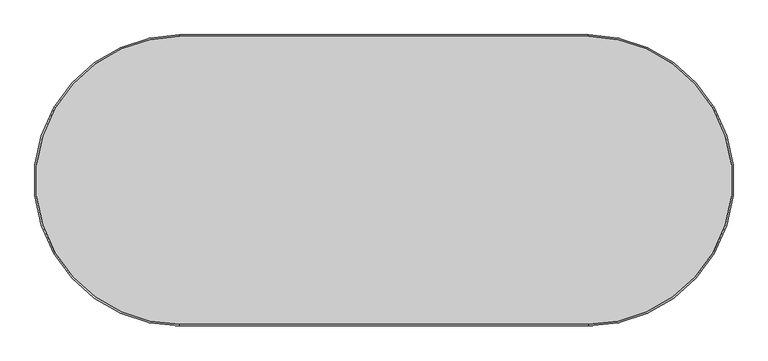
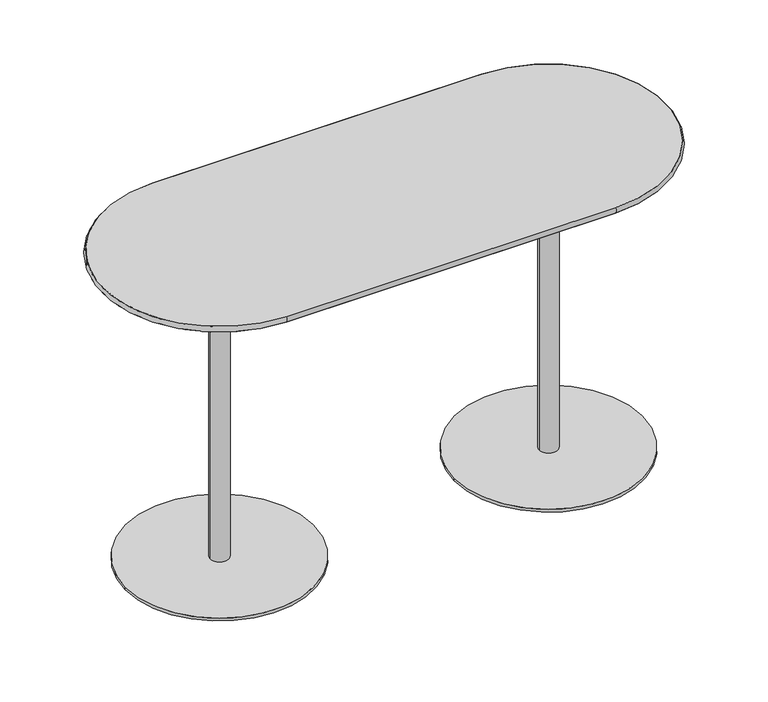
"""IFC4 building model written with IfcOpenShell, lengths in millimetres: furniture geometry, Steelcase Coalesse - Enea - Table - Double Base : Racetrack - 42H - Laminate."""

import ifcopenshell
import ifcopenshell.guid

model = None  # the IFC model being written
_history = None  # IfcOwnerHistory: only IFC2X3 demands one
_inside = {}  # id of a spatial element -> (the spatial element, [elements in it])
_under = {}  # id of a project, library or spatial element -> (it, [spatial elements below it])
_declared = {}  # id of a project -> (the project, [libraries it declares])
_typed = {}  # id of a type object -> (the type object, [elements of that type])
_made_of = {}  # id of a material, layer set ... -> (it, [elements and type objects made of it])


def new_model(schema):
    """Start an empty IFC model of exactly this schema.

    Asked for "IFC4X3", IfcOpenShell would pick the latest addendum, in which some entities
    have other attributes; the version numbers below select the first issue.
    IFC2X3 requires an IfcOwnerHistory on every rooted entity: one is made here for all.
    """
    global model, _history
    if schema == "IFC4X3":
        model = ifcopenshell.file(schema_version=(4, 3, 0, 0))
    else:
        model = ifcopenshell.file(schema=schema)
    _inside.clear()
    _under.clear()
    _declared.clear()
    _typed.clear()
    _made_of.clear()
    _history = None
    if model.schema == "IFC2X3":
        org = make("IfcOrganization", Name="unknown")
        user = make(
            "IfcPersonAndOrganization",
            ThePerson=make("IfcPerson", FamilyName="unknown"),
            TheOrganization=org,
        )
        app = make(
            "IfcApplication",
            ApplicationDeveloper=org,
            Version="unknown",
            ApplicationFullName="unknown",
            ApplicationIdentifier="unknown",
        )
        _history = make(
            "IfcOwnerHistory",
            OwningUser=user,
            OwningApplication=app,
            ChangeAction="ADDED",
            CreationDate=0,
        )
    return model


def make(cls, **values):
    """One entity of the class cls with the attributes given. An attribute that is None is left unset."""
    return model.create_entity(
        cls, **{name: value for name, value in values.items() if value is not None}
    )


def rooted(cls, **values):
    """An entity with a GlobalId (a new one), such as an element, a storey or a relation."""
    return make(cls, GlobalId=ifcopenshell.guid.new(), OwnerHistory=_history, **values)


def si_unit(unit_type, name, prefix=None):
    """IfcSIUnit, for example si_unit("LENGTHUNIT", "METRE", prefix="MILLI")."""
    return make("IfcSIUnit", UnitType=unit_type, Prefix=prefix, Name=name)


def assignment(units):
    """IfcUnitAssignment: the units of a project."""
    return None if units is None else make("IfcUnitAssignment", Units=units)


def point(xyz):
    """IfcCartesianPoint."""
    return None if xyz is None else make("IfcCartesianPoint", Coordinates=xyz)


def direction(xyz):
    """IfcDirection."""
    return None if xyz is None else make("IfcDirection", DirectionRatios=xyz)


def frame(location, z_axis=None, x_axis=None):
    """IfcAxis2Placement3D, a coordinate frame: its origin and axes. An axis left out is left unset."""
    return make(
        "IfcAxis2Placement3D",
        Location=point(location),
        Axis=direction(z_axis),
        RefDirection=direction(x_axis),
    )


def frame_2d(location, x_axis=None):
    """IfcAxis2Placement2D, a coordinate frame in the plane: its origin and x axis."""
    return make(
        "IfcAxis2Placement2D", Location=point(location), RefDirection=direction(x_axis)
    )


def origin():
    """The frame at (0, 0, 0) with its axes left unset."""
    return frame((0.0, 0.0, 0.0))


def origin_with_axes():
    """The frame at (0, 0, 0) with the z axis (0, 0, 1) and the x axis (1, 0, 0) written out."""
    return frame((0.0, 0.0, 0.0), z_axis=(0.0, 0.0, 1.0), x_axis=(1.0, 0.0, 0.0))


def place(relative_to, where):
    """IfcLocalPlacement: puts the frame where relative to a parent placement (None: the world)."""
    return make(
        "IfcLocalPlacement", PlacementRelTo=relative_to, RelativePlacement=where
    )


def context(
    kind, dimensions, precision=None, world=None, true_north=None, identifier=None
):
    """IfcGeometricRepresentationContext, for example the 3D "Model" context."""
    return make(
        "IfcGeometricRepresentationContext",
        ContextIdentifier=identifier,
        ContextType=kind,
        CoordinateSpaceDimension=dimensions,
        Precision=precision,
        WorldCoordinateSystem=world,
        TrueNorth=true_north,
    )


def project(units=None, contexts=None):
    """IfcProject with its units and contexts."""
    return rooted(
        "IfcProject",
        Name="project",
        RepresentationContexts=contexts,
        UnitsInContext=assignment(units),
    )


def spatial(cls, under=None, at=None, **own):
    """A site, building, storey or space (cls), placed at a placement, below another one or the project."""
    s = rooted(cls, ObjectPlacement=at, **own)
    if under is not None:
        _under.setdefault(under.id(), (under, []))[1].append(s)
    return s


def polyline(points):
    """IfcPolyline through the points."""
    return make("IfcPolyline", Points=[point(p) for p in points])


def circle_curve(where, radius):
    """IfcCircle in the frame where."""
    return make("IfcCircle", Position=where, Radius=radius)


def ellipse_curve(where, semi_axis1, semi_axis2):
    """IfcEllipse in the frame where."""
    return make(
        "IfcEllipse", Position=where, SemiAxis1=semi_axis1, SemiAxis2=semi_axis2
    )


def trimmed(basis, trim1, trim2, sense, master):
    """IfcTrimmedCurve: the piece of a basis curve between two trims."""
    return make(
        "IfcTrimmedCurve",
        BasisCurve=basis,
        Trim1=trim1,
        Trim2=trim2,
        SenseAgreement=sense,
        MasterRepresentation=master,
    )


def segment(curve, same_sense, transition):
    """IfcCompositeCurveSegment."""
    return make(
        "IfcCompositeCurveSegment",
        Transition=transition,
        SameSense=same_sense,
        ParentCurve=curve,
    )


def composite_curve(segments, self_intersect=None):
    """IfcCompositeCurve: segments joined end to end."""
    return make("IfcCompositeCurve", Segments=segments, SelfIntersect=self_intersect)


def outline(outer, holes=None, kind="AREA"):
    """IfcArbitraryClosedProfileDef: a profile drawn as a closed curve; with holes, ...WithVoids."""
    if holes is None:
        return make("IfcArbitraryClosedProfileDef", ProfileType=kind, OuterCurve=outer)
    return make(
        "IfcArbitraryProfileDefWithVoids",
        ProfileType=kind,
        OuterCurve=outer,
        InnerCurves=holes,
    )


def extrude(swept, where, along, depth):
    """IfcExtrudedAreaSolid: the profile swept, set in the frame where, extruded along a direction by depth."""
    return make(
        "IfcExtrudedAreaSolid",
        SweptArea=swept,
        Position=where,
        ExtrudedDirection=direction(along),
        Depth=depth,
    )


def shape(context_of_items, identifier, shape_type, items):
    """IfcShapeRepresentation: the items that make up one representation, for example the "Body"."""
    return make(
        "IfcShapeRepresentation",
        ContextOfItems=context_of_items,
        RepresentationIdentifier=identifier,
        RepresentationType=shape_type,
        Items=items,
    )


def source(mapping_origin, context_of_items, identifier, shape_type, items):
    """IfcRepresentationMap: a shape defined once, which mapped items show again and again."""
    return make(
        "IfcRepresentationMap",
        MappingOrigin=mapping_origin,
        MappedRepresentation=shape(context_of_items, identifier, shape_type, items),
    )


def transform(
    local_origin,
    x_axis=None,
    y_axis=None,
    z_axis=None,
    scale=None,
    scale2=None,
    scale3=None,
    uniform=True,
):
    """IfcCartesianTransformationOperator3D, or its non-uniform kind. x_axis, y_axis, z_axis: its Axis1, 2, 3."""
    if uniform:
        return make(
            "IfcCartesianTransformationOperator3D",
            Axis1=direction(x_axis),
            Axis2=direction(y_axis),
            LocalOrigin=point(local_origin),
            Scale=scale,
            Axis3=direction(z_axis),
        )
    return make(
        "IfcCartesianTransformationOperator3DnonUniform",
        Axis1=direction(x_axis),
        Axis2=direction(y_axis),
        LocalOrigin=point(local_origin),
        Scale=scale,
        Axis3=direction(z_axis),
        Scale2=scale2,
        Scale3=scale3,
    )


def mapped(mapping_source, mapping_target):
    """IfcMappedItem: shows the shape of a source again, moved by a transform."""
    return make(
        "IfcMappedItem", MappingSource=mapping_source, MappingTarget=mapping_target
    )


def made_of(thing, what):
    """Note that an element or type object is made of a material, layer set ...; save() writes the relation."""
    if what is not None:
        _made_of.setdefault(what.id(), (what, []))[1].append(thing)
    return thing


def element(
    cls,
    number,
    at=None,
    inside=None,
    cuts=None,
    type_object=None,
    material=None,
    context=None,
    identifier="Body",
    shape_type=None,
    held_by="IfcProductDefinitionShape",
    body=None,
    shapes=None,
    **own,
):
    """One element of the class cls, such as IfcWall. Its Tag is "e" and its number.

    at: its placement. inside: the storey or other place that contains it. cuts: it is an
    opening in that element (IfcRelVoidsElement). A single representation is given by context,
    identifier, shape_type and body (its items); several are given by shapes. held_by: the class
    of the entity that holds the representations. save() writes the other relations.
    """
    e = rooted(cls, Tag="e%d" % number, ObjectPlacement=at, **own)
    if body is not None:
        shapes = [shape(context, identifier, shape_type, body)]
    if shapes is not None:
        e.Representation = make(held_by, Representations=shapes)
    if inside is not None:
        _inside.setdefault(inside.id(), (inside, []))[1].append(e)
    if cuts is not None:
        rooted(
            "IfcRelVoidsElement", RelatingBuildingElement=cuts, RelatedOpeningElement=e
        )
    if type_object is not None:
        _typed.setdefault(type_object.id(), (type_object, []))[1].append(e)
    return made_of(e, material)


def aggregate(whole, parts):
    """IfcRelAggregates: a whole, such as a stair, and the parts it consists of."""
    return rooted("IfcRelAggregates", RelatingObject=whole, RelatedObjects=parts)


def save(model, path):
    """Write the relations noted so far, then the file.

    IfcRelAggregates (storeys below a building ...), IfcRelContainedInSpatialStructure (elements
    in a storey), IfcRelDefinesByType, IfcRelAssociatesMaterial and IfcRelDeclares: one each for
    every whole, place, type object, material and project.
    """
    for whole, parts in _under.values():
        aggregate(whole, parts)
    for where, things in _inside.values():
        rooted(
            "IfcRelContainedInSpatialStructure",
            RelatedElements=things,
            RelatingStructure=where,
        )
    for kind, things in _typed.values():
        rooted("IfcRelDefinesByType", RelatedObjects=things, RelatingType=kind)
    for what, things in _made_of.values():
        rooted("IfcRelAssociatesMaterial", RelatedObjects=things, RelatingMaterial=what)
    for by, libraries in _declared.values():
        rooted("IfcRelDeclares", RelatingContext=by, RelatedDefinitions=libraries)
    model.write(path)


def plane_surface(at):
    """IfcPlane: the flat surface through the origin of the frame at, square to its z axis."""
    return make("IfcPlane", Position=at)


def cylinder_surface(at, radius):
    """IfcCylindricalSurface: all points at the distance radius from the z axis of the frame at."""
    return make("IfcCylindricalSurface", Position=at, Radius=radius)


def revolved_surface(curve, axis_point, axis_direction):
    """IfcSurfaceOfRevolution: the curve turned about the line through axis_point along axis_direction."""
    return make(
        "IfcSurfaceOfRevolution",
        SweptCurve=make("IfcArbitraryOpenProfileDef", ProfileType="CURVE", Curve=curve),
        AxisPosition=make("IfcAxis1Placement", Location=point(axis_point), Axis=direction(axis_direction)),
    )


def advanced_brep(points, edges, surfaces, faces):
    """IfcAdvancedBrep: a solid bounded by faces that lie on surfaces and meet in shared edges.

    An edge is (start, end): straight between two places in points (the first is 0);
    or (start, end, curve); or (start, end, curve, False) where it runs against its curve.
    A face is (place in surfaces, loops), or (place, loops, False) where it looks against
    its surface's normal. A loop lists edges by number (the first is 1), with a minus sign
    where the edge is run from its end to its start. The first loop is the outer one.
    """
    corners = [point(p) for p in points]
    vertices = [make("IfcVertexPoint", VertexGeometry=c) for c in corners]
    made = []
    for start, end, *more in edges:
        made.append(
            make(
                "IfcEdgeCurve",
                EdgeStart=vertices[start],
                EdgeEnd=vertices[end],
                EdgeGeometry=more[0] if more else make("IfcPolyline", Points=[corners[start], corners[end]]),
                SameSense=more[1] if len(more) > 1 else True,
            )
        )
    hull = []
    for where, loops, *sense in faces:
        bounds = []
        for j, loop in enumerate(loops):
            ring = [make("IfcOrientedEdge", EdgeElement=made[abs(k) - 1], Orientation=k > 0) for k in loop]
            bounds.append(
                make(
                    "IfcFaceOuterBound" if j == 0 else "IfcFaceBound",
                    Bound=make("IfcEdgeLoop", EdgeList=ring),
                    Orientation=True,
                )
            )
        hull.append(make("IfcAdvancedFace", Bounds=bounds, FaceSurface=surfaces[where], SameSense=sense[0] if sense else True))
    return make("IfcAdvancedBrep", Outer=make("IfcClosedShell", CfsFaces=hull))


def furniture_744412c8(model_context):
    return source(origin(), model_context, "Body", "SolidModel", [
        advanced_brep(
        [(-828.9851448, -914.5459525, 1047.75), (-828.9851448, -914.5459525, 1066.8), (237.7880276, -914.5459525, 1066.8), (237.7880276, -914.5459525, 1047.75), (237.7880276, -160.8897715, 1047.75), (237.7880276, -160.8897715, 1066.8), (-828.9851448, -160.8897715, 1066.8), (-828.9851448, -160.8897715, 1047.75)],
        [
            (0, 1),
            (1, 2),
            (2, 3),
            (3, 0),
            (1, 0, circle_curve(frame((-828.9851448, -905.1264226, 1057.275), z_axis=(1.0, 0.0, 0.0), x_axis=(0.0, 1.0, 0.0)), 13.3960131)),
            (3, 2, circle_curve(frame((237.7880276, -905.1264226, 1057.275), z_axis=(-1.0, 0.0, 0.0), x_axis=(0.0, 1.0, 0.0)), 13.3960131)),
            (4, 3, circle_curve(frame((237.7880276, -537.717862, 1047.75), z_axis=(0.0, 0.0, -1.0), x_axis=(0.0, -1.0, 0.0)), 376.8280905)),
            (2, 5, circle_curve(frame((237.7880276, -537.717862, 1066.8), z_axis=(0.0, 0.0, 1.0), x_axis=(0.0, -1.0, 0.0)), 376.8280905)),
            (5, 4),
            (4, 5, circle_curve(frame((237.7880276, -170.3093013, 1057.275), z_axis=(1.0, 0.0, 0.0), x_axis=(0.0, -1.0, 0.0)), 13.3960131)),
            (5, 6),
            (6, 7),
            (7, 4),
            (7, 6, circle_curve(frame((-828.9851448, -170.3093013, 1057.275), z_axis=(1.0, 0.0, 0.0), x_axis=(0.0, -1.0, 0.0)), 13.3960131)),
            (0, 7, circle_curve(frame((-828.9851448, -537.717862, 1047.75), z_axis=(0.0, 0.0, -1.0), x_axis=(0.0, 1.0, 0.0)), 376.8280905)),
            (6, 1, circle_curve(frame((-828.9851448, -537.717862, 1066.8), z_axis=(0.0, 0.0, 1.0), x_axis=(0.0, 1.0, 0.0)), 376.8280905)),
        ],
        [
            plane_surface(frame((-828.9851448, -914.5459525, 1066.8), z_axis=(0.0, 1.0, 0.0), x_axis=(1.0, 0.0, 0.0))),
            cylinder_surface(frame((-828.9851448, -905.1264226, 1057.275), z_axis=(-1.0, 0.0, 0.0), x_axis=(0.0, 1.0, 0.0)), 13.3960131),
            revolved_surface(polyline([(237.7880276, -914.5459524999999, 1066.8), (237.7880276, -914.5459524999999, 1047.75)]), (237.7880276, -537.717862, 0.0), (0.0, 0.0, 1.0)),
            revolved_surface(trimmed(ellipse_curve(frame((237.7880276, -905.1264226, 1057.275), z_axis=(-1.0, 0.0, 0.0), x_axis=(0.0, 1.0, 0.0)), 13.3960131, 13.3960131), [point((237.7880276, -914.5459525, 1047.75))], [point((237.7880276, -914.5459525, 1066.8))], True, "CARTESIAN"), (237.7880276, -537.717862, 0.0), (0.0, 0.0, 1.0)),
            plane_surface(frame((237.7880276, -160.8897715, 1066.8), z_axis=(0.0, -1.0, 0.0), x_axis=(-1.0, 0.0, 0.0))),
            cylinder_surface(frame((237.7880276, -170.3093013, 1057.275), z_axis=(1.0, 0.0, 0.0), x_axis=(0.0, -1.0, 0.0)), 13.3960131),
            revolved_surface(polyline([(-828.9851448, -160.8897715, 1066.8), (-828.9851448, -160.8897715, 1047.75)]), (-828.9851448, -537.717862, 0.0), (0.0, 0.0, 1.0)),
            revolved_surface(trimmed(ellipse_curve(frame((-828.9851448, -170.3093013, 1057.275), z_axis=(1.0, 0.0, 0.0), x_axis=(0.0, -1.0, 0.0)), 13.3960131, 13.3960131), [point((-828.9851448, -160.8897715, 1047.75))], [point((-828.9851448, -160.8897715, 1066.8))], True, "CARTESIAN"), (-828.9851448, -537.717862, 0.0), (0.0, 0.0, 1.0)),
        ],
        [
            (0, [[1, 2, 3, 4]]),
            (1, [[5, -4, 6, -2]]),
            (2, [[7, -3, 8, 9]]),
            (3, [[-8, -6, -7, 10]]),
            (4, [[-9, 11, 12, 13]]),
            (5, [[-10, -13, 14, -11]]),
            (6, [[15, -12, 16, -1]]),
            (7, [[-16, -14, -15, -5]]),
        ],
    ),
        extrude(outline(composite_curve([segment(trimmed(circle_curve(frame_2d((237.7880276, -537.717862)), 376.7002625), [point((237.7880276, -161.0175995))], [point((237.7880276, -914.4181244))], False, "CARTESIAN"), True, "CONTINUOUS"), segment(polyline([(237.7880276, -914.4181244), (-828.9851448, -914.4181244)]), True, "CONTINUOUS"), segment(trimmed(circle_curve(frame_2d((-828.9851448, -537.717862)), 376.7002625), [point((-828.9851448, -914.4181244))], [point((-828.9851448, -161.0175995))], False, "CARTESIAN"), True, "CONTINUOUS"), segment(polyline([(-828.9851448, -161.0175995), (237.7880276, -161.0175995)]), True, "CONTINUOUS")], self_intersect=False)), frame((0.0, 0.0, 1047.75), z_axis=(0.0, 0.0, 1.0), x_axis=(1.0, 0.0, 0.0)), (0.0, 0.0, 1.0), 19.05),
        extrude(outline(composite_curve([segment(trimmed(circle_curve(frame_2d((-829.113029, -284.0746893)), 25.4), [point((-803.713029, -284.0746893))], [point((-854.513029, -284.0746893))], False, "CARTESIAN"), True, "CONTINUOUS"), segment(trimmed(circle_curve(frame_2d((-829.113029, -284.0746893)), 25.4), [point((-854.513029, -284.0746893))], [point((-803.713029, -284.0746893))], False, "CARTESIAN"), True, "CONTINUOUS")], self_intersect=False)), origin_with_axes(), (0.0, 0.0, 1.0), 6.35),
        extrude(outline(composite_curve([segment(trimmed(circle_curve(frame_2d((-1082.7563397, -537.3772238)), 25.4), [point((-1057.3563397, -537.3772238))], [point((-1108.1563397, -537.3772238))], False, "CARTESIAN"), True, "CONTINUOUS"), segment(trimmed(circle_curve(frame_2d((-1082.7563397, -537.3772238)), 25.4), [point((-1108.1563397, -537.3772238))], [point((-1057.3563397, -537.3772238))], False, "CARTESIAN"), True, "CONTINUOUS")], self_intersect=False)), origin_with_axes(), (0.0, 0.0, 1.0), 6.35),
        extrude(outline(composite_curve([segment(trimmed(circle_curve(frame_2d((-575.4697182, -537.3772238)), 25.4), [point((-550.0697182, -537.3772238))], [point((-600.8697182, -537.3772238))], False, "CARTESIAN"), True, "CONTINUOUS"), segment(trimmed(circle_curve(frame_2d((-575.4697182, -537.3772238)), 25.4), [point((-600.8697182, -537.3772238))], [point((-550.0697182, -537.3772238))], False, "CARTESIAN"), True, "CONTINUOUS")], self_intersect=False)), origin_with_axes(), (0.0, 0.0, 1.0), 6.35),
        extrude(outline(composite_curve([segment(trimmed(circle_curve(frame_2d((-829.113029, -790.6797584)), 25.4), [point((-803.713029, -790.6797584))], [point((-854.513029, -790.6797584))], False, "CARTESIAN"), True, "CONTINUOUS"), segment(trimmed(circle_curve(frame_2d((-829.113029, -790.6797584)), 25.4), [point((-854.513029, -790.6797584))], [point((-803.713029, -790.6797584))], False, "CARTESIAN"), True, "CONTINUOUS")], self_intersect=False)), origin_with_axes(), (0.0, 0.0, 1.0), 6.35),
        extrude(outline(composite_curve([segment(trimmed(circle_curve(frame_2d((-829.113029, -537.718)), 304.8), [point((-1133.913029, -537.718))], [point((-524.313029, -537.718))], False, "CARTESIAN"), True, "CONTINUOUS"), segment(trimmed(circle_curve(frame_2d((-829.113029, -537.718)), 304.8), [point((-524.313029, -537.718))], [point((-1133.913029, -537.718))], False, "CARTESIAN"), True, "CONTINUOUS")], self_intersect=False)), frame((0.0, 0.0, 6.35), z_axis=(0.0, 0.0, 1.0), x_axis=(1.0, 0.0, 0.0)), (0.0, 0.0, 1.0), 9.525),
        extrude(outline(composite_curve([segment(trimmed(circle_curve(frame_2d((-829.1133197, -537.7179273)), 30.0214725), [point((-859.1347922, -537.7179273))], [point((-799.0918471, -537.7179273))], False, "CARTESIAN"), True, "CONTINUOUS"), segment(trimmed(circle_curve(frame_2d((-829.1133197, -537.7179273)), 30.0214725), [point((-799.0918471, -537.7179273))], [point((-859.1347922, -537.7179273))], False, "CARTESIAN"), True, "CONTINUOUS")], self_intersect=False)), frame((0.0, 0.0, 15.875), z_axis=(0.0, 0.0, 1.0), x_axis=(1.0, 0.0, 0.0)), (0.0, 0.0, 1.0), 1031.875),
        extrude(outline(composite_curve([segment(trimmed(circle_curve(frame_2d((237.686971, -284.0746893)), 25.4), [point((212.286971, -284.0746893))], [point((263.086971, -284.0746893))], False, "CARTESIAN"), True, "CONTINUOUS"), segment(trimmed(circle_curve(frame_2d((237.686971, -284.0746893)), 25.4), [point((263.086971, -284.0746893))], [point((212.286971, -284.0746893))], False, "CARTESIAN"), True, "CONTINUOUS")], self_intersect=False)), origin_with_axes(), (0.0, 0.0, 1.0), 6.35),
        extrude(outline(composite_curve([segment(trimmed(circle_curve(frame_2d((491.3302818, -537.3772238)), 25.4), [point((465.9302818, -537.3772238))], [point((516.7302818, -537.3772238))], False, "CARTESIAN"), True, "CONTINUOUS"), segment(trimmed(circle_curve(frame_2d((491.3302818, -537.3772238)), 25.4), [point((516.7302818, -537.3772238))], [point((465.9302818, -537.3772238))], False, "CARTESIAN"), True, "CONTINUOUS")], self_intersect=False)), origin_with_axes(), (0.0, 0.0, 1.0), 6.35),
        extrude(outline(composite_curve([segment(trimmed(circle_curve(frame_2d((-15.9563397, -537.3772238)), 25.4), [point((-41.3563397, -537.3772238))], [point((9.4436603, -537.3772238))], False, "CARTESIAN"), True, "CONTINUOUS"), segment(trimmed(circle_curve(frame_2d((-15.9563397, -537.3772238)), 25.4), [point((9.4436603, -537.3772238))], [point((-41.3563397, -537.3772238))], False, "CARTESIAN"), True, "CONTINUOUS")], self_intersect=False)), origin_with_axes(), (0.0, 0.0, 1.0), 6.35),
        extrude(outline(composite_curve([segment(trimmed(circle_curve(frame_2d((237.686971, -790.6797584)), 25.4), [point((212.286971, -790.6797584))], [point((263.086971, -790.6797584))], False, "CARTESIAN"), True, "CONTINUOUS"), segment(trimmed(circle_curve(frame_2d((237.686971, -790.6797584)), 25.4), [point((263.086971, -790.6797584))], [point((212.286971, -790.6797584))], False, "CARTESIAN"), True, "CONTINUOUS")], self_intersect=False)), origin_with_axes(), (0.0, 0.0, 1.0), 6.35),
        extrude(outline(composite_curve([segment(trimmed(circle_curve(frame_2d((237.686971, -537.718)), 304.8), [point((542.486971, -537.718))], [point((-67.113029, -537.718))], False, "CARTESIAN"), True, "CONTINUOUS"), segment(trimmed(circle_curve(frame_2d((237.686971, -537.718)), 304.8), [point((-67.113029, -537.718))], [point((542.486971, -537.718))], False, "CARTESIAN"), True, "CONTINUOUS")], self_intersect=False)), frame((0.0, 0.0, 6.35), z_axis=(0.0, 0.0, 1.0), x_axis=(1.0, 0.0, 0.0)), (0.0, 0.0, 1.0), 9.525),
        extrude(outline(composite_curve([segment(trimmed(circle_curve(frame_2d((237.6872617, -537.7179273)), 30.0214725), [point((267.7087342, -537.7179273))], [point((207.6657892, -537.7179273))], False, "CARTESIAN"), True, "CONTINUOUS"), segment(trimmed(circle_curve(frame_2d((237.6872617, -537.7179273)), 30.0214725), [point((207.6657892, -537.7179273))], [point((267.7087342, -537.7179273))], False, "CARTESIAN"), True, "CONTINUOUS")], self_intersect=False)), frame((0.0, 0.0, 15.875), z_axis=(0.0, 0.0, 1.0), x_axis=(1.0, 0.0, 0.0)), (0.0, 0.0, 1.0), 1031.875),
    ])


if __name__ == "__main__":
    model = new_model("IFC4")
    model_context = context("Model", 3, world=origin())
    ifc_project = project(units=[si_unit("LENGTHUNIT", "METRE", prefix="MILLI")], contexts=[model_context])
    site = spatial("IfcSite", under=ifc_project)
    building = spatial("IfcBuilding", under=site)
    placement = place(None, origin())
    furniture_shape = furniture_744412c8(model_context)
    element("IfcFurniture", 1, ObjectType="Steelcase Coalesse - Enea - Table - Double Base : Racetrack - 42H - Laminate", at=placement, inside=building, context=model_context, shape_type="MappedRepresentation", body=[
        mapped(furniture_shape, transform((0.0, 0.0, 0.0), x_axis=(1.0, 0.0, 0.0), y_axis=(0.0, 1.0, 0.0), z_axis=(0.0, 0.0, 1.0))),
    ])
    save(model, "model.ifc")
